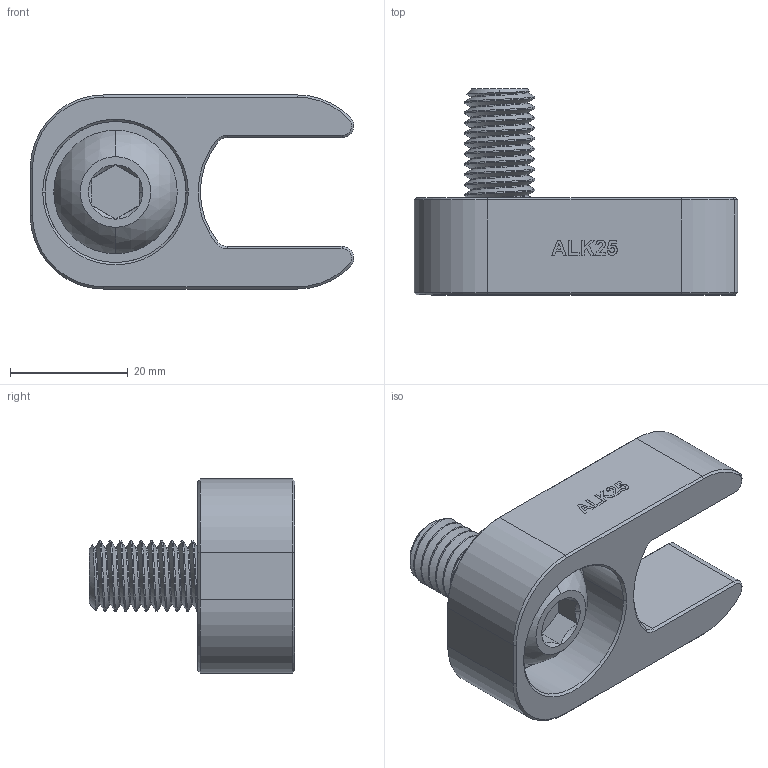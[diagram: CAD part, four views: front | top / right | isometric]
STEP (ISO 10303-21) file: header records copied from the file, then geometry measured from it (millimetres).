
FILE_DESCRIPTION (( 'STEP AP203' ), '1' );
FILE_NAME ('ALK25- Keeper Key.STEP', '2020-12-17T22:00:14', ( '' ), ( '' ), 'SwSTEP 2.0', 'SolidWorks 2020', '' );
FILE_SCHEMA (( 'CONFIG_CONTROL_DESIGN' ));
Length unit declared in the file: inch
Products named in the file (3): ALK25- Keeper Key-2-r1; ALK25- Keeper Key; M12_1_75X25_ BUTTON-HEAD SOCKET CAP SCREW_91239A614
Assembly tree (2 placements, depth 2):
  ALK25- Keeper Key
    ALK25- Keeper Key-2-r1
    M12_1_75X25_ BUTTON-HEAD SOCKET CAP SCREW_91239A614
Bounding box: 55 x 35 x 33 mm (x, y, z)
Volume: 19056.9 mm3; surface area: 8995.3 mm2
Topology: 2 solids, 2 shells, 208 faces, 535 edges, 341 vertices
Faces by surface type: cylinder 75, plane 75, cone 36, bspline 20, sphere 2
Entity records: 10000 total; most frequent: CARTESIAN_POINT 5096, ORIENTED_EDGE 1070, DIRECTION 825, EDGE_CURVE 535, VERTEX_POINT 341, LINE 287, VECTOR 287, AXIS2_PLACEMENT_3D 269
